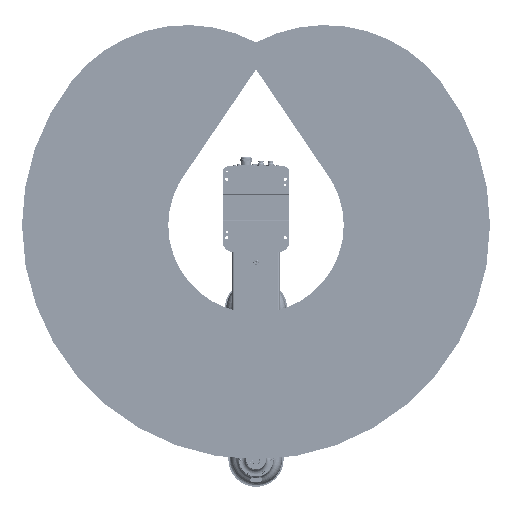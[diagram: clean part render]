
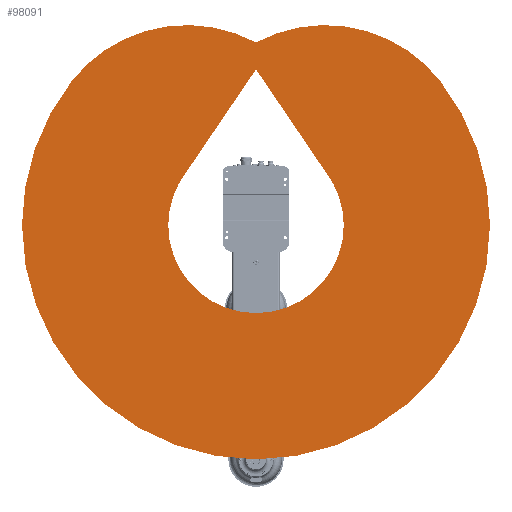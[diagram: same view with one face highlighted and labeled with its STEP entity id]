
A CAD part, front view. The second image highlights one B-rep face of the part: STEP entity #98091.
In plain terms, the highlighted planar face has unit normal (0, -1, 0) as drawn and (0, 0, 1) by its records, which use the part's own axes.
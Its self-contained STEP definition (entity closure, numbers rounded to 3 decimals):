
#131 = AXIS2_PLACEMENT_3D ( 'NONE', #71367, #306152, #373781 ) ;
#1372 = DIRECTION ( 'NONE',  ( 1., 0., 0. ) ) ;
#1818 = VERTEX_POINT ( 'NONE', #18620 ) ;
#8403 = DIRECTION ( 'NONE',  ( 1., 0., 0. ) ) ;
#10243 = VERTEX_POINT ( 'NONE', #24671 ) ;
#18620 = CARTESIAN_POINT ( 'NONE',  ( -472.806, -369.397, 156.5 ) ) ;
#20311 = CARTESIAN_POINT ( 'NONE',  ( 0., -400., 156.5 ) ) ;
#21154 = VERTEX_POINT ( 'NONE', #46739 ) ;
#24671 = CARTESIAN_POINT ( 'NONE',  ( -600., 0., 156.5 ) ) ;
#35147 = PLANE ( 'NONE',  #112589 ) ;
#35536 = DIRECTION ( 'NONE',  ( 0., 0., 1. ) ) ;
#35724 = EDGE_CURVE ( 'NONE', #115069, #188399, #436348, .T. ) ;
#39602 = DIRECTION ( 'NONE',  ( 0., 0., 1. ) ) ;
#42358 = ORIENTED_EDGE ( 'NONE', *, *, #419278, .F. ) ;
#42955 = EDGE_LOOP ( 'NONE', ( #296308, #45859, #320237, #289327, #42358 ) ) ;
#45859 = ORIENTED_EDGE ( 'NONE', *, *, #301543, .F. ) ;
#46739 = CARTESIAN_POINT ( 'NONE',  ( 225., 0., 156.5 ) ) ;
#57006 = ORIENTED_EDGE ( 'NONE', *, *, #35724, .T. ) ;
#69709 = DIRECTION ( 'NONE',  ( 0., 0., 1. ) ) ;
#71367 = CARTESIAN_POINT ( 'NONE',  ( 0., 0., 156.5 ) ) ;
#75582 = FACE_OUTER_BOUND ( 'NONE', #252428, .T. ) ;
#76542 = DIRECTION ( 'NONE',  ( 0., 0., 1. ) ) ;
#83212 = VERTEX_POINT ( 'NONE', #437021 ) ;
#89078 = VECTOR ( 'NONE', #215335, 1000. ) ;
#92192 = EDGE_CURVE ( 'NONE', #1818, #83212, #231134, .T. ) ;
#98091 = ADVANCED_FACE ( 'NONE', ( #75582, #136646 ), #35147, .T. ) ;
#107994 = DIRECTION ( 'NONE',  ( 1., 0., 0. ) ) ;
#112297 = ORIENTED_EDGE ( 'NONE', *, *, #161651, .T. ) ;
#112333 = CARTESIAN_POINT ( 'NONE',  ( -177.302, -138.524, 156.5 ) ) ;
#112589 = AXIS2_PLACEMENT_3D ( 'NONE', #172679, #39602, #1372 ) ;
#115069 = VERTEX_POINT ( 'NONE', #159033 ) ;
#123513 = CIRCLE ( 'NONE', #181190, 375. ) ;
#131771 = CARTESIAN_POINT ( 'NONE',  ( 177.302, -138.524, 156.5 ) ) ;
#135205 = CARTESIAN_POINT ( 'NONE',  ( 0., 0., 156.5 ) ) ;
#136234 = VERTEX_POINT ( 'NONE', #131771 ) ;
#136646 = FACE_BOUND ( 'NONE', #42955, .T. ) ;
#141595 = CIRCLE ( 'NONE', #393754, 225. ) ;
#145420 = LINE ( 'NONE', #420672, #89078 ) ;
#151884 = AXIS2_PLACEMENT_3D ( 'NONE', #112333, #423629, #358128 ) ;
#159033 = CARTESIAN_POINT ( 'NONE',  ( 472.806, -369.397, 156.5 ) ) ;
#159237 = VERTEX_POINT ( 'NONE', #296248 ) ;
#160559 = DIRECTION ( 'NONE',  ( 1., 0., 0. ) ) ;
#161651 = EDGE_CURVE ( 'NONE', #10243, #1818, #252185, .T. ) ;
#164240 = CARTESIAN_POINT ( 'NONE',  ( 0., -400., 156.5 ) ) ;
#167019 = EDGE_CURVE ( 'NONE', #192180, #304718, #145420, .T. ) ;
#167294 = CARTESIAN_POINT ( 'NONE',  ( 0., 0., 156.5 ) ) ;
#172679 = CARTESIAN_POINT ( 'NONE',  ( 0., -138.524, 156.5 ) ) ;
#180100 = DIRECTION ( 'NONE',  ( 0., 0., 1. ) ) ;
#180292 = DIRECTION ( 'NONE',  ( 1., 0., 0. ) ) ;
#180532 = CARTESIAN_POINT ( 'NONE',  ( 600., 0., 156.5 ) ) ;
#181190 = AXIS2_PLACEMENT_3D ( 'NONE', #419544, #76542, #180292 ) ;
#188399 = VERTEX_POINT ( 'NONE', #180532 ) ;
#192180 = VERTEX_POINT ( 'NONE', #428318 ) ;
#215335 = DIRECTION ( 'NONE',  ( 0.561, -0.828, 0. ) ) ;
#231134 = CIRCLE ( 'NONE', #151884, 375. ) ;
#236125 = EDGE_CURVE ( 'NONE', #188399, #10243, #445884, .T. ) ;
#238261 = EDGE_CURVE ( 'NONE', #83212, #115069, #123513, .T. ) ;
#244342 = AXIS2_PLACEMENT_3D ( 'NONE', #167294, #275586, #305015 ) ;
#252185 = CIRCLE ( 'NONE', #131, 600. ) ;
#252428 = EDGE_LOOP ( 'NONE', ( #295167, #314124, #57006, #326913, #112297 ) ) ;
#275586 = DIRECTION ( 'NONE',  ( 0., 0., 1. ) ) ;
#289327 = ORIENTED_EDGE ( 'NONE', *, *, #304735, .F. ) ;
#295167 = ORIENTED_EDGE ( 'NONE', *, *, #92192, .T. ) ;
#296248 = CARTESIAN_POINT ( 'NONE',  ( -225., 0., 156.5 ) ) ;
#296308 = ORIENTED_EDGE ( 'NONE', *, *, #167019, .F. ) ;
#300470 = CARTESIAN_POINT ( 'NONE',  ( 0., 0., 156.5 ) ) ;
#301543 = EDGE_CURVE ( 'NONE', #159237, #192180, #141595, .T. ) ;
#304718 = VERTEX_POINT ( 'NONE', #20311 ) ;
#304735 = EDGE_CURVE ( 'NONE', #136234, #21154, #352084, .T. ) ;
#305015 = DIRECTION ( 'NONE',  ( 1., 0., 0. ) ) ;
#306152 = DIRECTION ( 'NONE',  ( 0., 0., 1. ) ) ;
#306429 = LINE ( 'NONE', #164240, #385152 ) ;
#314124 = ORIENTED_EDGE ( 'NONE', *, *, #238261, .T. ) ;
#320237 = ORIENTED_EDGE ( 'NONE', *, *, #446514, .F. ) ;
#323184 = AXIS2_PLACEMENT_3D ( 'NONE', #135205, #69709, #107994 ) ;
#326913 = ORIENTED_EDGE ( 'NONE', *, *, #236125, .T. ) ;
#352084 = CIRCLE ( 'NONE', #323184, 225. ) ;
#353754 = CARTESIAN_POINT ( 'NONE',  ( 0., 0., 156.5 ) ) ;
#355966 = DIRECTION ( 'NONE',  ( 1., 0., 0. ) ) ;
#358128 = DIRECTION ( 'NONE',  ( 1., 0., 0. ) ) ;
#373781 = DIRECTION ( 'NONE',  ( 1., 0., 0. ) ) ;
#377043 = DIRECTION ( 'NONE',  ( 0., 0., 1. ) ) ;
#378548 = DIRECTION ( 'NONE',  ( 0.561, 0.828, 0. ) ) ;
#385152 = VECTOR ( 'NONE', #378548, 1000. ) ;
#392198 = AXIS2_PLACEMENT_3D ( 'NONE', #300470, #377043, #160559 ) ;
#393244 = AXIS2_PLACEMENT_3D ( 'NONE', #419001, #35536, #8403 ) ;
#393754 = AXIS2_PLACEMENT_3D ( 'NONE', #353754, #180100, #355966 ) ;
#419001 = CARTESIAN_POINT ( 'NONE',  ( 0., 0., 156.5 ) ) ;
#419278 = EDGE_CURVE ( 'NONE', #304718, #136234, #306429, .T. ) ;
#419544 = CARTESIAN_POINT ( 'NONE',  ( 177.302, -138.524, 156.5 ) ) ;
#420672 = CARTESIAN_POINT ( 'NONE',  ( -177.302, -138.524, 156.5 ) ) ;
#421209 = CIRCLE ( 'NONE', #392198, 225. ) ;
#423629 = DIRECTION ( 'NONE',  ( 0., 0., 1. ) ) ;
#428318 = CARTESIAN_POINT ( 'NONE',  ( -177.302, -138.524, 156.5 ) ) ;
#436348 = CIRCLE ( 'NONE', #393244, 600. ) ;
#437021 = CARTESIAN_POINT ( 'NONE',  ( 0., -468.961, 156.5 ) ) ;
#445884 = CIRCLE ( 'NONE', #244342, 600. ) ;
#446514 = EDGE_CURVE ( 'NONE', #21154, #159237, #421209, .T. ) ;
